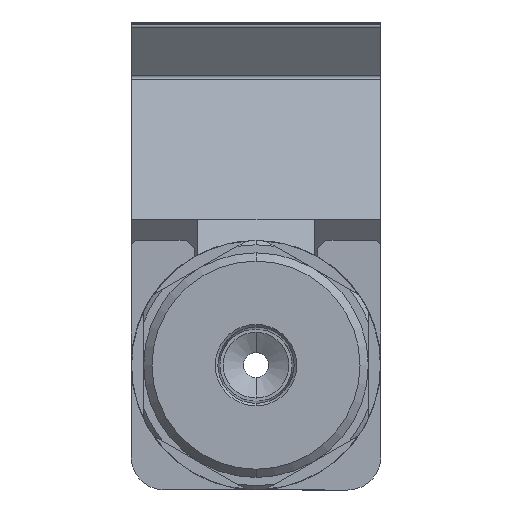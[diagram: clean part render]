
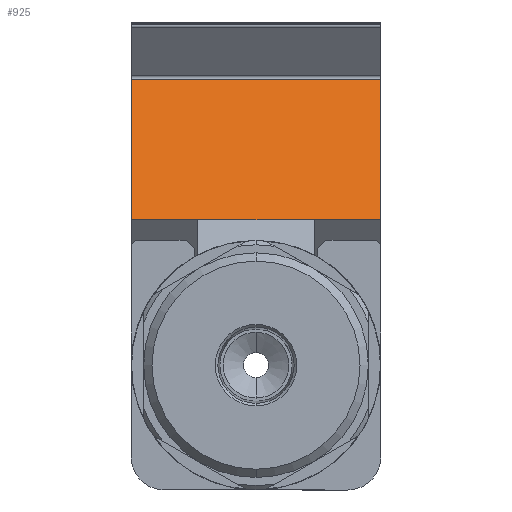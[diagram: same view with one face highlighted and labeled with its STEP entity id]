
A CAD part, front view. The second image highlights one B-rep face of the part: STEP entity #925.
In plain terms, the highlighted planar face has unit normal (0, -0.617, 0.787) as drawn and (-0.866, 0.5, 0) by its records, which use the part's own axes.
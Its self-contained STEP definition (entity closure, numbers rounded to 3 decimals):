
#198 = ORIENTED_EDGE ( 'NONE', *, *, #7332, .F. ) ;
#205 = ORIENTED_EDGE ( 'NONE', *, *, #7330, .F. ) ;
#209 = ORIENTED_EDGE ( 'NONE', *, *, #7339, .F. ) ;
#211 = ORIENTED_EDGE ( 'NONE', *, *, #7338, .F. ) ;
#212 = ORIENTED_EDGE ( 'NONE', *, *, #7327, .F. ) ;
#221 = ORIENTED_EDGE ( 'NONE', *, *, #7341, .F. ) ;
#386 = AXIS2_PLACEMENT_3D ( 'NONE', #4381, #7225, #4841 ) ;
#925 = ADVANCED_FACE ( 'NONE', ( #1311 ), #4374, .F. ) ;
#1311 = FACE_OUTER_BOUND ( 'NONE', #2049, .T. ) ;
#2049 = EDGE_LOOP ( 'NONE', ( #209, #211, #198, #205, #212, #221 ) ) ;
#2733 = CARTESIAN_POINT ( 'NONE',  ( 151.775, 114.409, 15. ) ) ;
#2734 = DIRECTION ( 'NONE',  ( 0., 0., 1. ) ) ;
#2735 = CARTESIAN_POINT ( 'NONE',  ( 151.775, 114.409, 15. ) ) ;
#2736 = DIRECTION ( 'NONE',  ( -0.5, -0.866, 0. ) ) ;
#2747 = CARTESIAN_POINT ( 'NONE',  ( 138.115, 90.75, 15. ) ) ;
#2749 = DIRECTION ( 'NONE',  ( 0., 0., -1. ) ) ;
#2759 = CARTESIAN_POINT ( 'NONE',  ( 138.115, 90.75, 15. ) ) ;
#2760 = DIRECTION ( 'NONE',  ( 0., 0., -1. ) ) ;
#2761 = CARTESIAN_POINT ( 'NONE',  ( 138.115, 90.75, 15. ) ) ;
#2762 = DIRECTION ( 'NONE',  ( 0., 0., -1. ) ) ;
#2764 = CARTESIAN_POINT ( 'NONE',  ( 151.775, 114.409, -15. ) ) ;
#2765 = DIRECTION ( 'NONE',  ( 0.5, 0.866, 0. ) ) ;
#4374 = PLANE ( 'NONE',  #386 ) ;
#4381 = CARTESIAN_POINT ( 'NONE',  ( 151.775, 114.409, 15. ) ) ;
#4841 = DIRECTION ( 'NONE',  ( 0.5, 0.866, 0. ) ) ;
#5082 = VERTEX_POINT ( 'NONE', #7036 ) ;
#5091 = VERTEX_POINT ( 'NONE', #7042 ) ;
#5092 = VERTEX_POINT ( 'NONE', #7043 ) ;
#5098 = VERTEX_POINT ( 'NONE', #7049 ) ;
#5099 = VERTEX_POINT ( 'NONE', #7050 ) ;
#5107 = VERTEX_POINT ( 'NONE', #7058 ) ;
#5835 = LINE ( 'NONE', #2733, #5838 ) ;
#5838 = VECTOR ( 'NONE', #2734, 1000. ) ;
#5840 = LINE ( 'NONE', #2735, #5842 ) ;
#5842 = VECTOR ( 'NONE', #2736, 1000. ) ;
#5843 = LINE ( 'NONE', #2747, #5846 ) ;
#5846 = VECTOR ( 'NONE', #2749, 1000. ) ;
#5855 = LINE ( 'NONE', #2759, #5858 ) ;
#5857 = LINE ( 'NONE', #2761, #5860 ) ;
#5858 = VECTOR ( 'NONE', #2760, 1000. ) ;
#5860 = VECTOR ( 'NONE', #2762, 1000. ) ;
#5861 = LINE ( 'NONE', #2764, #5864 ) ;
#5864 = VECTOR ( 'NONE', #2765, 1000. ) ;
#7036 = CARTESIAN_POINT ( 'NONE',  ( 138.115, 90.75, 7. ) ) ;
#7042 = CARTESIAN_POINT ( 'NONE',  ( 138.115, 90.75, -7. ) ) ;
#7043 = CARTESIAN_POINT ( 'NONE',  ( 138.115, 90.75, -15. ) ) ;
#7049 = CARTESIAN_POINT ( 'NONE',  ( 138.115, 90.75, 15. ) ) ;
#7050 = CARTESIAN_POINT ( 'NONE',  ( 151.775, 114.409, 15. ) ) ;
#7058 = CARTESIAN_POINT ( 'NONE',  ( 151.775, 114.409, -15. ) ) ;
#7225 = DIRECTION ( 'NONE',  ( 0.866, -0.5, 0. ) ) ;
#7327 = EDGE_CURVE ( 'NONE', #5107, #5099, #5835, .T. ) ;
#7330 = EDGE_CURVE ( 'NONE', #5099, #5098, #5840, .T. ) ;
#7332 = EDGE_CURVE ( 'NONE', #5098, #5082, #5843, .T. ) ;
#7338 = EDGE_CURVE ( 'NONE', #5082, #5091, #5855, .T. ) ;
#7339 = EDGE_CURVE ( 'NONE', #5091, #5092, #5857, .T. ) ;
#7341 = EDGE_CURVE ( 'NONE', #5092, #5107, #5861, .T. ) ;
